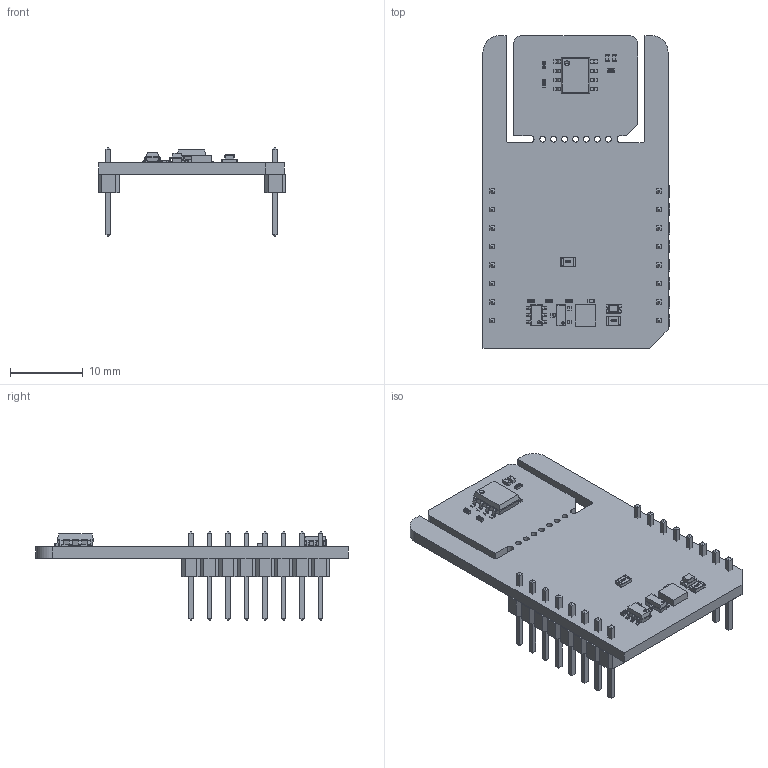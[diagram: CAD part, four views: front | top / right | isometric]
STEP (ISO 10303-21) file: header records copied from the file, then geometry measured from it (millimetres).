
FILE_DESCRIPTION(('Open CASCADE Model'),'2;1');
FILE_NAME('Open CASCADE Shape Model','2026-05-14T09:24:50',('Author'),( 'Open CASCADE'),'Open CASCADE STEP processor 7.5','Open CASCADE 7.5' ,'Unknown');
FILE_SCHEMA(('AUTOMOTIVE_DESIGN { 1 0 10303 214 1 1 1 1 }'));
Length unit declared in the file: millimetre
Products named in the file (35): PCB; Board; Open CASCADE STEP translator 7.5 1.1.1; U3; SOIC-8; R7; User Library-R_0402; R6; R5; C3; User Library-SMD CAPACITOR0402; C2; R3; R1; User Library-R_0805; LD1; led_0805_green; R2; C1; R4; Q1; SOT23-3; U1; 8145921840; Extruded; U2; User Library-SOT23-6-2; MBD1; Header 1x8; Free-Models; 1240637040; User_Library-PinHeaderX5-1_PinHeaderX5_Body_1; User_Library-PinHeaderX5-1_PinHeaderX5_Pins_1; JP1
Assembly tree (44 placements, depth 7):
  PCB
    Board
      Open CASCADE STEP translator 7.5 1.1.1
    U3
      SOIC-8
    R7
      User Library-R_0402
    R6
      User Library-R_0402
    R5
      User Library-R_0402
    C3
      User Library-SMD CAPACITOR0402
    C2
      User Library-SMD CAPACITOR0402
    R3
      User Library-R_0402
    R1
      User Library-R_0805
    LD1
      led_0805_green
    R2
      User Library-R_0402
    C1
      User Library-SMD CAPACITOR0402
    R4
      User Library-R_0402
    Q1
      SOT23-3
    U1
      8145921840
        Extruded
    U2
      User Library-SOT23-6-2
    MBD1
      Header 1x8  x2
        PCB
          Free-Models
            1240637040  x2
              User_Library-PinHeaderX5-1_PinHeaderX5_Body_1
              User_Library-PinHeaderX5-1_PinHeaderX5_Pins_1
    JP1
      User Library-R_0805
Bounding box: 25.78 x 42.93 x 12.19 mm (x, y, z)
Volume: 2180.5 mm3; surface area: 3967.8 mm2
Topology: 49 solids, 49 shells, 1686 faces, 4249 edges, 2702 vertices
Faces by surface type: plane 1270, bspline 240, cylinder 142, sphere 34
Full cylindrical faces by diameter (mm): 0.8 x7
Entity records: 28979 total; most frequent: CARTESIAN_POINT 8133, ORIENTED_EDGE 3636, DIRECTION 3305, EDGE_CURVE 1818, LINE 1449, VECTOR 1449, VERTEX_POINT 1156, AXIS2_PLACEMENT_3D 928
